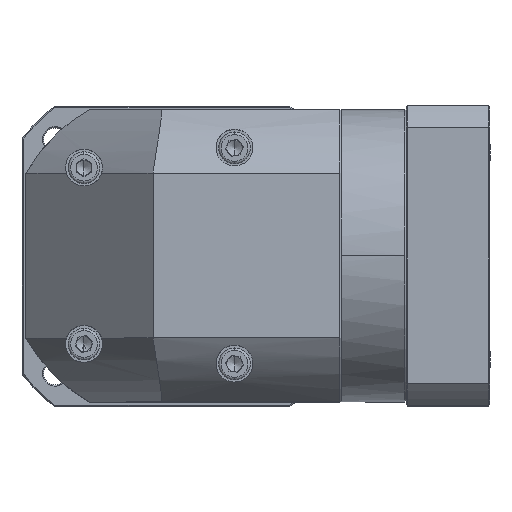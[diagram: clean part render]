
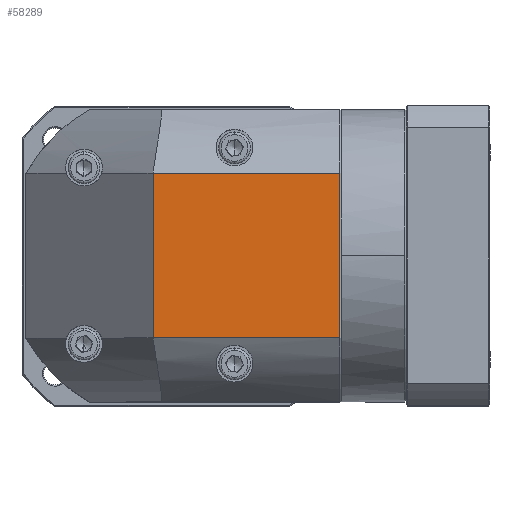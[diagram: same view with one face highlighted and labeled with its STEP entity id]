
A CAD part, top view. The second image highlights one B-rep face of the part: STEP entity #58289.
In plain terms, the highlighted planar face has unit normal (0, 0, 1).
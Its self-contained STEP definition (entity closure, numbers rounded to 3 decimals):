
#76 = CARTESIAN_POINT ( 'NONE',  ( -7.768, 29.558, 60.212 ) ) ;
#1528 = EDGE_LOOP ( 'NONE', ( #7895, #10976, #56686, #115048 ) ) ;
#3442 = EDGE_CURVE ( 'NONE', #76600, #79177, #48193, .T. ) ;
#6776 = AXIS2_PLACEMENT_3D ( 'NONE', #72690, #73574, #20610 ) ;
#7895 = ORIENTED_EDGE ( 'NONE', *, *, #3442, .F. ) ;
#10940 = DIRECTION ( 'NONE',  ( -1., 0., 0. ) ) ;
#10976 = ORIENTED_EDGE ( 'NONE', *, *, #49547, .F. ) ;
#17321 = CARTESIAN_POINT ( 'NONE',  ( 115.632, 29.558, 60.212 ) ) ;
#20610 = DIRECTION ( 'NONE',  ( 0., -1., 0. ) ) ;
#22729 = CARTESIAN_POINT ( 'NONE',  ( 115.632, 119.458, 60.212 ) ) ;
#22753 = CARTESIAN_POINT ( 'NONE',  ( -7.768, 94.358, 60.212 ) ) ;
#23696 = CARTESIAN_POINT ( 'NONE',  ( 42.232, 94.358, 60.212 ) ) ;
#25178 = VECTOR ( 'NONE', #64568, 1000. ) ;
#34265 = LINE ( 'NONE', #76, #102342 ) ;
#35006 = VECTOR ( 'NONE', #42648, 1000. ) ;
#42648 = DIRECTION ( 'NONE',  ( 0., -1., 0. ) ) ;
#44031 = DIRECTION ( 'NONE',  ( 1., 0., 0. ) ) ;
#44473 = VERTEX_POINT ( 'NONE', #17321 ) ;
#48193 = LINE ( 'NONE', #22753, #116311 ) ;
#49547 = EDGE_CURVE ( 'NONE', #93990, #76600, #60664, .T. ) ;
#56686 = ORIENTED_EDGE ( 'NONE', *, *, #111282, .F. ) ;
#58289 = ADVANCED_FACE ( 'NONE', ( #110998 ), #74040, .F. ) ;
#60664 = LINE ( 'NONE', #70501, #25178 ) ;
#64568 = DIRECTION ( 'NONE',  ( 0., 1., 0. ) ) ;
#70501 = CARTESIAN_POINT ( 'NONE',  ( 42.232, 119.458, 60.212 ) ) ;
#72690 = CARTESIAN_POINT ( 'NONE',  ( 49.732, 61.958, 60.212 ) ) ;
#73574 = DIRECTION ( 'NONE',  ( 0., 0., -1. ) ) ;
#74040 = PLANE ( 'NONE',  #6776 ) ;
#76600 = VERTEX_POINT ( 'NONE', #23696 ) ;
#79177 = VERTEX_POINT ( 'NONE', #92331 ) ;
#92331 = CARTESIAN_POINT ( 'NONE',  ( 115.632, 94.358, 60.212 ) ) ;
#93990 = VERTEX_POINT ( 'NONE', #112592 ) ;
#102342 = VECTOR ( 'NONE', #10940, 1000. ) ;
#104633 = LINE ( 'NONE', #22729, #35006 ) ;
#110998 = FACE_OUTER_BOUND ( 'NONE', #1528, .T. ) ;
#111282 = EDGE_CURVE ( 'NONE', #44473, #93990, #34265, .T. ) ;
#112592 = CARTESIAN_POINT ( 'NONE',  ( 42.232, 29.558, 60.212 ) ) ;
#115048 = ORIENTED_EDGE ( 'NONE', *, *, #124158, .F. ) ;
#116311 = VECTOR ( 'NONE', #44031, 1000. ) ;
#124158 = EDGE_CURVE ( 'NONE', #79177, #44473, #104633, .T. ) ;
